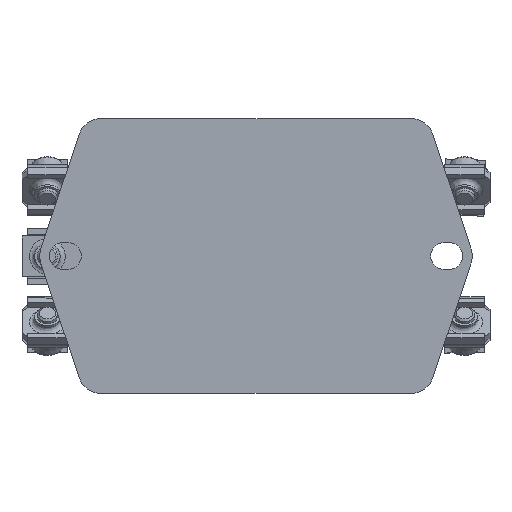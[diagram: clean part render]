
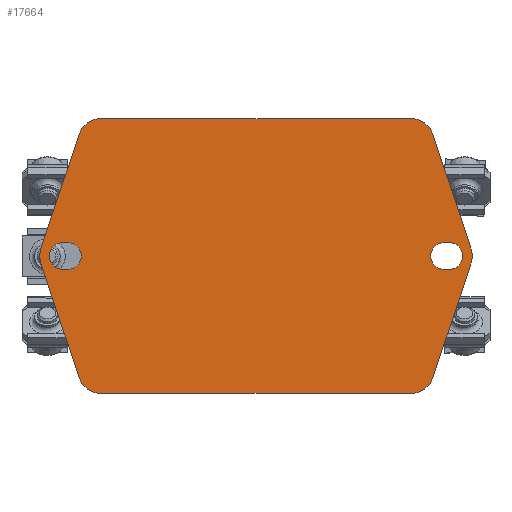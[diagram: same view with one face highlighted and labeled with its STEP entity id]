
A CAD part, top view. The second image highlights one B-rep face of the part: STEP entity #17664.
In plain terms, the highlighted planar face has unit normal (0, 0, 1).
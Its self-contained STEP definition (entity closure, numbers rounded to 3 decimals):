
#16422=CARTESIAN_POINT('',(-37.0,-2.65,40.3));
#16423=VERTEX_POINT('',#16422);
#16438=CARTESIAN_POINT('',(-38.,-2.65,40.3));
#16439=VERTEX_POINT('',#16438);
#16446=CARTESIAN_POINT('',(-37.0,-2.65,40.3));
#16447=DIRECTION('',(-1.0,0.0,0.0));
#16448=VECTOR('',#16447,1.);
#16449=LINE('',#16446,#16448);
#16450=EDGE_CURVE('',#16423,#16439,#16449,.T.);
#16460=CARTESIAN_POINT('',(-38.,2.65,40.3));
#16461=VERTEX_POINT('',#16460);
#16462=CARTESIAN_POINT('',(-38.0,0.,40.3));
#16463=DIRECTION('',(0.0,0.0,1.0));
#16464=DIRECTION('',(-0.707,0.707,0.0));
#16465=AXIS2_PLACEMENT_3D('',#16462,#16463,#16464);
#16466=CIRCLE('',#16465,2.65);
#16467=EDGE_CURVE('',#16461,#16439,#16466,.T.);
#16493=CARTESIAN_POINT('',(-37.0,2.65,40.3));
#16494=VERTEX_POINT('',#16493);
#16495=CARTESIAN_POINT('',(-37.0,0.,40.3));
#16496=DIRECTION('',(0.0,0.0,1.0));
#16497=DIRECTION('',(0.707,-0.707,0.0));
#16498=AXIS2_PLACEMENT_3D('',#16495,#16496,#16497);
#16499=CIRCLE('',#16498,2.65);
#16500=EDGE_CURVE('',#16423,#16494,#16499,.T.);
#16534=CARTESIAN_POINT('',(-38.0,2.65,40.3));
#16535=DIRECTION('',(1.0,0.0,0.0));
#16536=VECTOR('',#16535,1.0);
#16537=LINE('',#16534,#16536);
#16538=EDGE_CURVE('',#16461,#16494,#16537,.T.);
#16548=CARTESIAN_POINT('',(37.0,-2.65,40.3));
#16549=VERTEX_POINT('',#16548);
#16558=CARTESIAN_POINT('',(38.,-2.65,40.3));
#16559=VERTEX_POINT('',#16558);
#16560=CARTESIAN_POINT('',(38.,-2.65,40.3));
#16561=DIRECTION('',(-1.0,0.0,0.0));
#16562=VECTOR('',#16561,1.);
#16563=LINE('',#16560,#16562);
#16564=EDGE_CURVE('',#16559,#16549,#16563,.T.);
#16588=CARTESIAN_POINT('',(38.,2.65,40.3));
#16589=VERTEX_POINT('',#16588);
#16590=CARTESIAN_POINT('',(38.,0.0,40.3));
#16591=DIRECTION('',(0.0,0.0,1.0));
#16592=DIRECTION('',(0.707,-0.707,0.0));
#16593=AXIS2_PLACEMENT_3D('',#16590,#16591,#16592);
#16594=CIRCLE('',#16593,2.65);
#16595=EDGE_CURVE('',#16559,#16589,#16594,.T.);
#16622=CARTESIAN_POINT('',(37.0,2.65,40.3));
#16623=VERTEX_POINT('',#16622);
#16624=CARTESIAN_POINT('',(37.0,2.65,40.3));
#16625=DIRECTION('',(1.0,0.0,0.0));
#16626=VECTOR('',#16625,1.);
#16627=LINE('',#16624,#16626);
#16628=EDGE_CURVE('',#16623,#16589,#16627,.T.);
#16652=CARTESIAN_POINT('',(37.0,0.,40.3));
#16653=DIRECTION('',(0.0,0.0,1.0));
#16654=DIRECTION('',(-0.707,0.707,0.0));
#16655=AXIS2_PLACEMENT_3D('',#16652,#16653,#16654);
#16656=CIRCLE('',#16655,2.65);
#16657=EDGE_CURVE('',#16623,#16549,#16656,.T.);
#16860=CARTESIAN_POINT('',(34.768,23.928,40.3));
#16861=VERTEX_POINT('',#16860);
#16868=CARTESIAN_POINT('',(42.242,1.586,40.3));
#16869=VERTEX_POINT('',#16868);
#16870=CARTESIAN_POINT('',(42.242,1.586,40.3));
#16871=DIRECTION('',(-0.317,0.948,0.0));
#16872=VECTOR('',#16871,23.558);
#16873=LINE('',#16870,#16872);
#16874=EDGE_CURVE('',#16869,#16861,#16873,.T.);
#16891=CARTESIAN_POINT('',(30.5,27.0,40.3));
#16892=VERTEX_POINT('',#16891);
#16899=CARTESIAN_POINT('',(30.5,22.5,40.3));
#16900=DIRECTION('',(0.0,0.0,1.));
#16901=DIRECTION('',(0.948,0.317,0.0));
#16902=AXIS2_PLACEMENT_3D('',#16899,#16900,#16901);
#16903=CIRCLE('',#16902,4.5);
#16904=EDGE_CURVE('',#16861,#16892,#16903,.T.);
#16916=CARTESIAN_POINT('',(-30.5,27.0,40.3));
#16917=VERTEX_POINT('',#16916);
#16924=CARTESIAN_POINT('',(30.5,27.,40.3));
#16925=DIRECTION('',(-1.0,0.0,0.0));
#16926=VECTOR('',#16925,61.0);
#16927=LINE('',#16924,#16926);
#16928=EDGE_CURVE('',#16892,#16917,#16927,.T.);
#16940=CARTESIAN_POINT('',(-34.768,23.928,40.3));
#16941=VERTEX_POINT('',#16940);
#16948=CARTESIAN_POINT('',(-30.5,22.5,40.3));
#16949=DIRECTION('',(0.0,0.0,1.0));
#16950=DIRECTION('',(0.0,1.0,0.0));
#16951=AXIS2_PLACEMENT_3D('',#16948,#16949,#16950);
#16952=CIRCLE('',#16951,4.5);
#16953=EDGE_CURVE('',#16917,#16941,#16952,.T.);
#16965=CARTESIAN_POINT('',(-42.242,1.586,40.3));
#16966=VERTEX_POINT('',#16965);
#16973=CARTESIAN_POINT('',(-34.768,23.928,40.3));
#16974=DIRECTION('',(-0.317,-0.948,0.0));
#16975=VECTOR('',#16974,23.558);
#16976=LINE('',#16973,#16975);
#16977=EDGE_CURVE('',#16941,#16966,#16976,.T.);
#16989=CARTESIAN_POINT('',(-42.242,-1.586,40.3));
#16990=VERTEX_POINT('',#16989);
#16997=CARTESIAN_POINT('',(-37.5,0.,40.3));
#16998=DIRECTION('',(0.0,0.0,1.0));
#16999=DIRECTION('',(-0.948,0.317,0.0));
#17000=AXIS2_PLACEMENT_3D('',#16997,#16998,#16999);
#17001=CIRCLE('',#17000,5.0);
#17002=EDGE_CURVE('',#16966,#16990,#17001,.T.);
#17014=CARTESIAN_POINT('',(-34.768,-23.928,40.3));
#17015=VERTEX_POINT('',#17014);
#17022=CARTESIAN_POINT('',(-42.242,-1.586,40.3));
#17023=DIRECTION('',(0.317,-0.948,0.0));
#17024=VECTOR('',#17023,23.558);
#17025=LINE('',#17022,#17024);
#17026=EDGE_CURVE('',#16990,#17015,#17025,.T.);
#17038=CARTESIAN_POINT('',(-30.5,-27.,40.3));
#17039=VERTEX_POINT('',#17038);
#17046=CARTESIAN_POINT('',(-30.5,-22.5,40.3));
#17047=DIRECTION('',(0.0,0.0,1.0));
#17048=DIRECTION('',(-0.948,-0.317,0.0));
#17049=AXIS2_PLACEMENT_3D('',#17046,#17047,#17048);
#17050=CIRCLE('',#17049,4.5);
#17051=EDGE_CURVE('',#17015,#17039,#17050,.T.);
#17063=CARTESIAN_POINT('',(30.5,-27.,40.3));
#17064=VERTEX_POINT('',#17063);
#17071=CARTESIAN_POINT('',(-30.5,-27.,40.3));
#17072=DIRECTION('',(1.0,0.0,0.0));
#17073=VECTOR('',#17072,61.);
#17074=LINE('',#17071,#17073);
#17075=EDGE_CURVE('',#17039,#17064,#17074,.T.);
#17087=CARTESIAN_POINT('',(34.768,-23.928,40.3));
#17088=VERTEX_POINT('',#17087);
#17095=CARTESIAN_POINT('',(30.5,-22.5,40.3));
#17096=DIRECTION('',(0.0,0.0,1.0));
#17097=DIRECTION('',(0.0,-1.0,0.0));
#17098=AXIS2_PLACEMENT_3D('',#17095,#17096,#17097);
#17099=CIRCLE('',#17098,4.5);
#17100=EDGE_CURVE('',#17064,#17088,#17099,.T.);
#17112=CARTESIAN_POINT('',(42.242,-1.586,40.3));
#17113=VERTEX_POINT('',#17112);
#17120=CARTESIAN_POINT('',(34.768,-23.928,40.3));
#17121=DIRECTION('',(0.317,0.948,0.0));
#17122=VECTOR('',#17121,23.558);
#17123=LINE('',#17120,#17122);
#17124=EDGE_CURVE('',#17088,#17113,#17123,.T.);
#17137=CARTESIAN_POINT('',(37.5,0.,40.3));
#17138=DIRECTION('',(0.0,0.0,1.0));
#17139=DIRECTION('',(0.948,-0.317,0.0));
#17140=AXIS2_PLACEMENT_3D('',#17137,#17138,#17139);
#17141=CIRCLE('',#17140,5.0);
#17142=EDGE_CURVE('',#17113,#16869,#17141,.T.);
#17633=CARTESIAN_POINT('',(0.,0.,40.3));
#17634=DIRECTION('',(0.0,0.0,1.0));
#17635=DIRECTION('',(1.0,0.0,0.0));
#17636=AXIS2_PLACEMENT_3D('',#17633,#17634,#17635);
#17637=PLANE('',#17636);
#17638=ORIENTED_EDGE('',*,*,#17142,.T.);
#17639=ORIENTED_EDGE('',*,*,#16874,.T.);
#17640=ORIENTED_EDGE('',*,*,#16904,.T.);
#17641=ORIENTED_EDGE('',*,*,#16928,.T.);
#17642=ORIENTED_EDGE('',*,*,#16953,.T.);
#17643=ORIENTED_EDGE('',*,*,#16977,.T.);
#17644=ORIENTED_EDGE('',*,*,#17002,.T.);
#17645=ORIENTED_EDGE('',*,*,#17026,.T.);
#17646=ORIENTED_EDGE('',*,*,#17051,.T.);
#17647=ORIENTED_EDGE('',*,*,#17075,.T.);
#17648=ORIENTED_EDGE('',*,*,#17100,.T.);
#17649=ORIENTED_EDGE('',*,*,#17124,.T.);
#17650=EDGE_LOOP('',(#17638,#17639,#17640,#17641,#17642,#17643,#17644,#17645,#17646,#17647,#17648,#17649));
#17651=FACE_OUTER_BOUND('',#17650,.T.);
#17652=ORIENTED_EDGE('',*,*,#16467,.F.);
#17653=ORIENTED_EDGE('',*,*,#16538,.T.);
#17654=ORIENTED_EDGE('',*,*,#16500,.F.);
#17655=ORIENTED_EDGE('',*,*,#16450,.T.);
#17656=EDGE_LOOP('',(#17652,#17653,#17654,#17655));
#17657=FACE_BOUND('',#17656,.T.);
#17658=ORIENTED_EDGE('',*,*,#16657,.F.);
#17659=ORIENTED_EDGE('',*,*,#16628,.T.);
#17660=ORIENTED_EDGE('',*,*,#16595,.F.);
#17661=ORIENTED_EDGE('',*,*,#16564,.T.);
#17662=EDGE_LOOP('',(#17658,#17659,#17660,#17661));
#17663=FACE_BOUND('',#17662,.T.);
#17664=ADVANCED_FACE('',(#17651,#17657,#17663),#17637,.T.);
